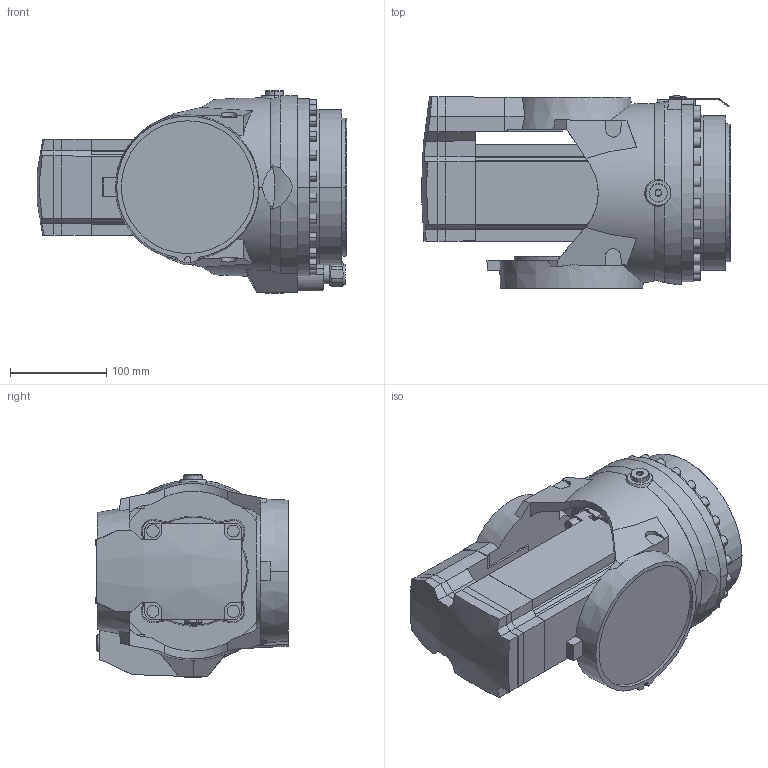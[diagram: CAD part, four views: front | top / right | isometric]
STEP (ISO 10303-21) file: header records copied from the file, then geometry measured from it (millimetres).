
FILE_DESCRIPTION (( 'STEP AP214' ), '1' );
FILE_NAME ('IRB6730S_All-350_OC_01_LINK05_CAD.step', '2026-05-26T10:33:19', ( '' ), ( '' ), 'SwSTEP 2.0', 'SolidWorks 2024', '' );
FILE_SCHEMA (( 'AUTOMOTIVE_DESIGN' ));
Length unit declared in the file: millimetre
Products named in the file (1): IRB6730S_All-350_OC_01_LINK05_CAD
Bounding box: 321.19 x 200.3 x 210 mm (x, y, z)
Volume: 5850153 mm3; surface area: 374761 mm2
Topology: 1 solids, 1 shells, 637 faces, 1669 edges, 1087 vertices
Faces by surface type: plane 366, cylinder 152, cone 83, bspline 19, torus 17
Entity records: 29080 total; most frequent: CARTESIAN_POINT 6735, ORIENTED_EDGE 3338, DIRECTION 3005, EDGE_CURVE 1669, VERTEX_POINT 1087, AXIS2_PLACEMENT_3D 1047, LINE 911, VECTOR 911
